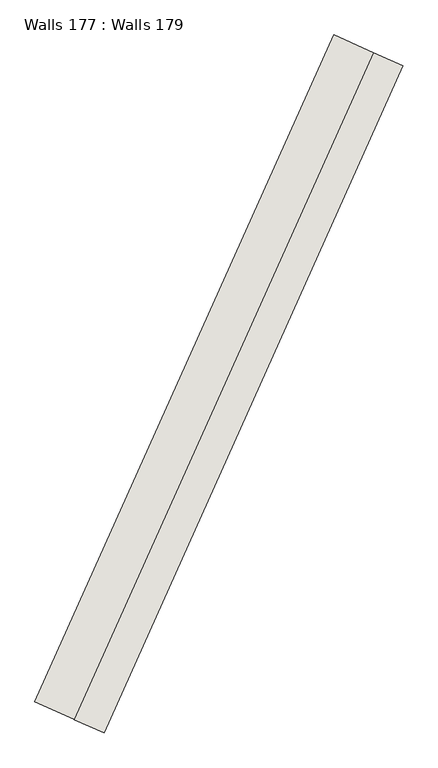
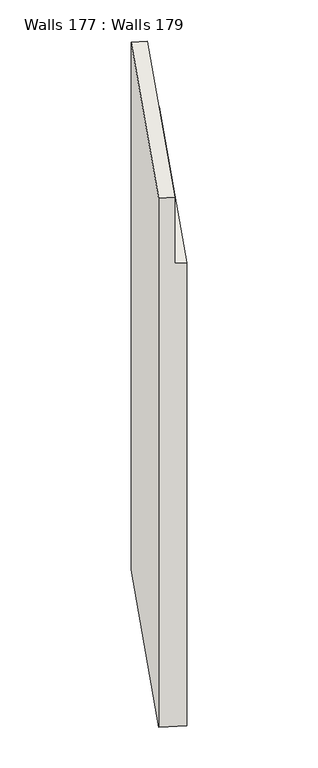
"""IFC4 building model written with IfcOpenShell, lengths in millimetres: wall geometry, Walls 177 : Walls 179."""

from ifc_helpers import new_model, si_unit, origin, place, context, project, spatial, faceted_brep, source, transform, mapped, element, save


def walls_177_walls_179_ab6df308(model_context):
    return source(origin(), model_context, "Body", "Brep", [
        faceted_brep([(191359.9610161, 68307.8831171, 648310.0), (191223.1201011, 68369.3205975, 648310.0), (191223.1201011, 68369.3205975, 649310.0), (191040.6655478, 68451.237238, 649310.0), (191040.6655478, 68451.237238, 641280.0), (191359.9610161, 68307.8831171, 641280.0), (192742.048741, 71386.2344375, 648330.0), (192742.048741, 71386.2344375, 641320.0), (192422.7532727, 71529.5885584, 641320.0), (192422.7532727, 71529.5885584, 649330.0), (192605.207826, 71447.6719179, 649330.0), (192605.207826, 71447.6719179, 648330.0)], [[[0, 1, 2, 3, 4, 5]], [[6, 7, 8, 9, 10, 11]], [[6, 11, 1, 0]], [[11, 10, 2, 1]], [[10, 9, 3, 2]], [[9, 8, 4, 3]], [[8, 7, 5, 4]], [[7, 6, 0, 5]]]),
    ])


if __name__ == "__main__":
    model = new_model("IFC4")
    model_context = context("Model", 3, world=origin())
    ifc_project = project(units=[si_unit("LENGTHUNIT", "METRE", prefix="MILLI")], contexts=[model_context])
    site = spatial("IfcSite", under=ifc_project)
    building = spatial("IfcBuilding", under=site)
    placement = place(None, origin())
    walls_177_walls_179_shape = walls_177_walls_179_ab6df308(model_context)
    element("IfcWall", 1, ObjectType="Walls 177 : Walls 179", at=placement, inside=building, context=model_context, shape_type="MappedRepresentation", body=[
        mapped(walls_177_walls_179_shape, transform((0.0, 0.0, 0.0), x_axis=(1.0, 0.0, 0.0), y_axis=(0.0, 1.0, 0.0), z_axis=(0.0, 0.0, 1.0))),
    ])
    save(model, "model.ifc")
